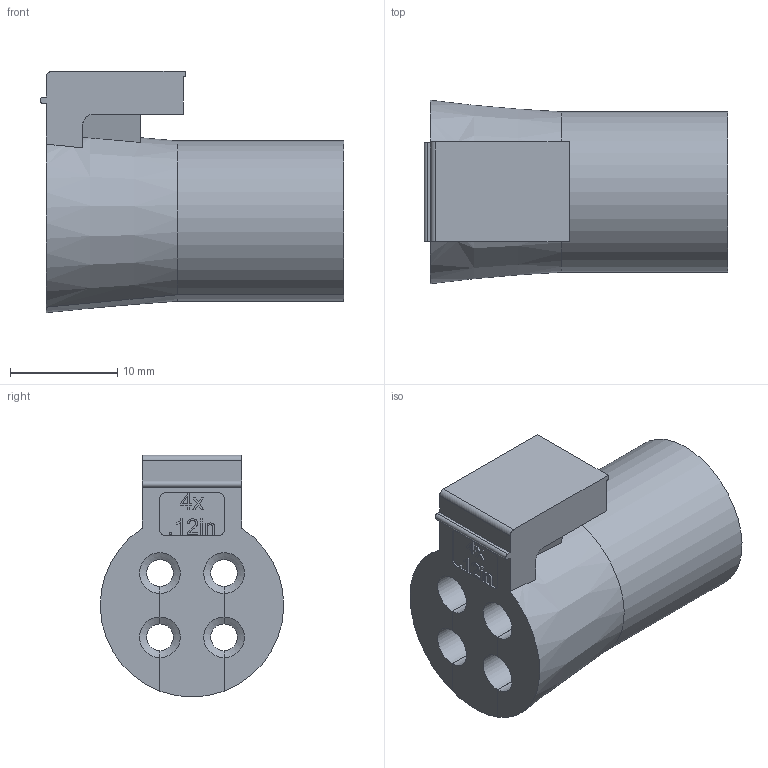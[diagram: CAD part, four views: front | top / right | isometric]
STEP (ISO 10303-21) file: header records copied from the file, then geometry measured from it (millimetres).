
FILE_DESCRIPTION(/* description */ (''),/* implementation_level */ '2;1');
FILE_NAME(/* name */ 'H:\SapWorkDir\Inventor\MP1\ConvertTempPath\87_12_121333_00_A_220525_KDT-X 4x3.stp',/* time_stamp */ '2022-05-25T11:18:57+02:00',/* author */ ('BAUER'),/* organization */ (''),/* preprocessor_version */ 'ST-DEVELOPER v16.13',/* originating_system */ 'Autodesk Inventor 2018',/* authorisation */ '');
FILE_SCHEMA (('AUTOMOTIVE_DESIGN { 1 0 10303 214 3 1 1 }'));
Length unit declared in the file: millimetre
Products named in the file (1): 121333
Bounding box: 28.4 x 17.14 x 22.55 mm (x, y, z)
Volume: 4596.5 mm3; surface area: 3904.5 mm2
Topology: 1 solids, 1 shells, 156 faces, 434 edges, 290 vertices
Faces by surface type: plane 95, cylinder 29, bspline 18, cone 14
Entity records: 5116 total; most frequent: CARTESIAN_POINT 1123, ORIENTED_EDGE 868, DIRECTION 734, EDGE_CURVE 434, LINE 324, VECTOR 324, VERTEX_POINT 290, AXIS2_PLACEMENT_3D 205
